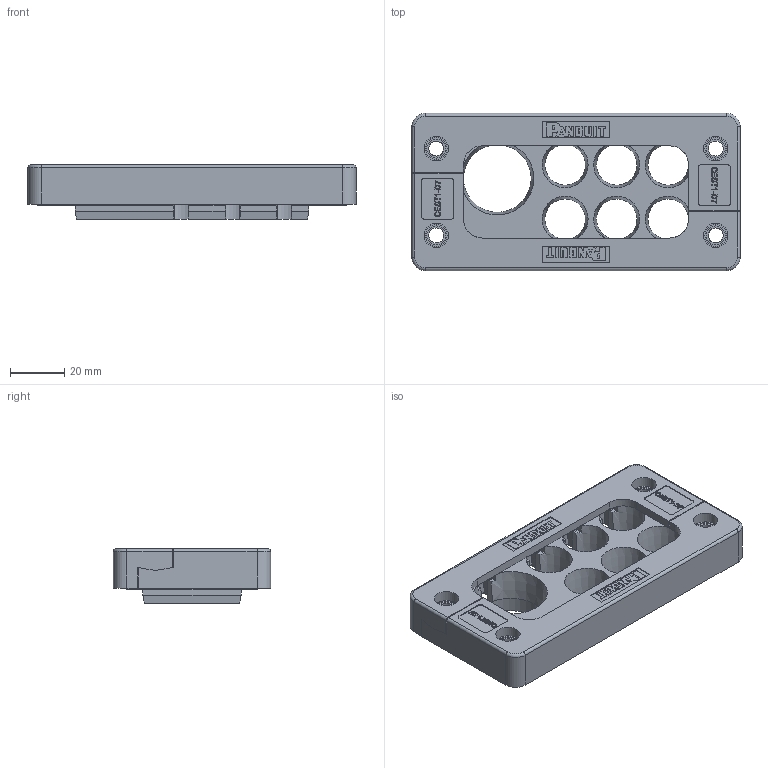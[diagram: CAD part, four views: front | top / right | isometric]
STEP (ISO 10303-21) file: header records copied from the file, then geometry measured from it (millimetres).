
FILE_DESCRIPTION(/* description */ (''),/* implementation_level */ '2;1');
FILE_NAME(/* name */ 'H:\SapWorkDir\Inventor\MP1\ConvertTempPath\87_11_121461_00_A_220620_KDL-C 16-7 ZSB.stp',/* time_stamp */ '2022-06-20T10:38:37+02:00',/* author */ ('BAUER'),/* organization */ (''),/* preprocessor_version */ 'ST-DEVELOPER v16.13',/* originating_system */ 'Autodesk Inventor 2018',/* authorisation */ '');
FILE_SCHEMA (('AUTOMOTIVE_DESIGN { 1 0 10303 214 3 1 1 }'));
Length unit declared in the file: millimetre
Products named in the file (3): 121461; KDB-16; 121408
Assembly tree (3 placements, depth 2):
  121461
    KDB-16
    121408  x2
Bounding box: 121 x 58 x 20 mm (x, y, z)
Volume: 73176.3 mm3; surface area: 39215.3 mm2
Topology: 3 solids, 3 shells, 977 faces, 2618 edges, 1718 vertices
Faces by surface type: plane 637, cylinder 171, bspline 132, torus 20, cone 11, sphere 6
Full cylindrical faces by diameter (mm): 5 x4, 5.5 x10, 6 x2, 7 x4, 8 x4, 9 x4
Entity records: 21954 total; most frequent: CARTESIAN_POINT 5009, ORIENTED_EDGE 3646, DIRECTION 3208, EDGE_CURVE 1823, LINE 1300, VECTOR 1300, VERTEX_POINT 1203, AXIS2_PLACEMENT_3D 954
